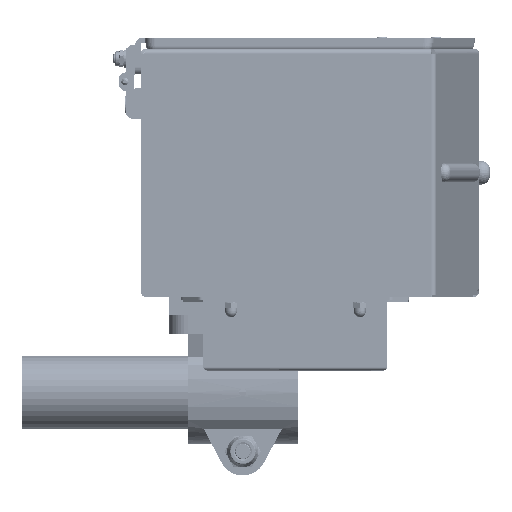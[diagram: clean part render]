
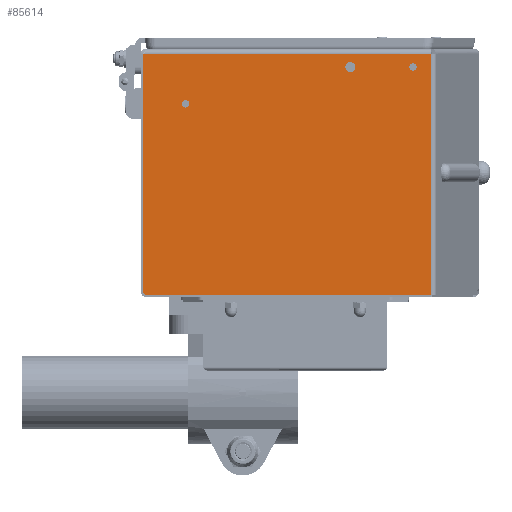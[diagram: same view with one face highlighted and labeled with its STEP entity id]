
A CAD part, left-side view. The second image highlights one B-rep face of the part: STEP entity #85614.
In plain terms, the highlighted planar face has unit normal (-1, 0, 0).
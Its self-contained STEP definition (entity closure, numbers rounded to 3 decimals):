
#4157=CIRCLE('',#103042,2.5);
#4377=CIRCLE('',#103397,2.05);
#4378=CIRCLE('',#103398,2.05);
#4379=CIRCLE('',#103399,2.05);
#21640=ORIENTED_EDGE('',*,*,#38430,.F.);
#21641=ORIENTED_EDGE('',*,*,#38423,.T.);
#21642=ORIENTED_EDGE('',*,*,#38451,.F.);
#21643=ORIENTED_EDGE('',*,*,#39011,.F.);
#21644=ORIENTED_EDGE('',*,*,#39012,.F.);
#21645=ORIENTED_EDGE('',*,*,#38434,.F.);
#21646=ORIENTED_EDGE('',*,*,#39013,.F.);
#21647=ORIENTED_EDGE('',*,*,#39014,.F.);
#21648=ORIENTED_EDGE('',*,*,#39015,.F.);
#38423=EDGE_CURVE('',#48275,#48274,#4157,.T.);
#38430=EDGE_CURVE('',#48275,#48281,#56698,.T.);
#38434=EDGE_CURVE('',#48281,#48282,#56702,.T.);
#38451=EDGE_CURVE('',#48296,#48274,#56717,.T.);
#39011=EDGE_CURVE('',#48708,#48296,#57028,.T.);
#39012=EDGE_CURVE('',#48282,#48708,#57029,.T.);
#39013=EDGE_CURVE('',#48709,#48709,#4377,.T.);
#39014=EDGE_CURVE('',#48710,#48710,#4378,.T.);
#39015=EDGE_CURVE('',#48711,#48711,#4379,.T.);
#48274=VERTEX_POINT('',#149723);
#48275=VERTEX_POINT('',#149725);
#48281=VERTEX_POINT('',#149740);
#48282=VERTEX_POINT('',#149744);
#48296=VERTEX_POINT('',#149782);
#48708=VERTEX_POINT('',#151214);
#48709=VERTEX_POINT('',#151217);
#48710=VERTEX_POINT('',#151219);
#48711=VERTEX_POINT('',#151221);
#56698=LINE('',#149739,#64813);
#56702=LINE('',#149747,#64817);
#56717=LINE('',#149781,#64832);
#57028=LINE('',#151213,#65143);
#57029=LINE('',#151215,#65144);
#64813=VECTOR('',#120616,1000.);
#64817=VECTOR('',#120622,1000.);
#64832=VECTOR('',#120651,1000.);
#65143=VECTOR('',#121646,1000.);
#65144=VECTOR('',#121647,1000.);
#71594=EDGE_LOOP('',(#21640,#21641,#21642,#21643,#21644,#21645));
#71595=EDGE_LOOP('',(#21646));
#71596=EDGE_LOOP('',(#21647));
#71597=EDGE_LOOP('',(#21648));
#77506=FACE_BOUND('',#71594,.T.);
#77507=FACE_BOUND('',#71595,.T.);
#77508=FACE_BOUND('',#71596,.T.);
#77509=FACE_BOUND('',#71597,.T.);
#81673=PLANE('',#103396);
#85614=ADVANCED_FACE('',(#77506,#77507,#77508,#77509),#81673,.F.);
#103042=AXIS2_PLACEMENT_3D('',#149724,#120602,#120603);
#103396=AXIS2_PLACEMENT_3D('',#151212,#121644,#121645);
#103397=AXIS2_PLACEMENT_3D('',#151216,#121648,#121649);
#103398=AXIS2_PLACEMENT_3D('',#151218,#121650,#121651);
#103399=AXIS2_PLACEMENT_3D('',#151220,#121652,#121653);
#120602=DIRECTION('',(-1.,0.,0.));
#120603=DIRECTION('',(0.,0.,-1.));
#120616=DIRECTION('',(0.,0.,1.));
#120622=DIRECTION('',(0.,-1.,0.));
#120651=DIRECTION('',(0.,1.,0.));
#121644=DIRECTION('',(1.,0.,0.));
#121645=DIRECTION('',(0.,0.,-1.));
#121646=DIRECTION('',(0.,0.,-1.));
#121647=DIRECTION('',(0.,-1.,0.));
#121648=DIRECTION('',(-1.,0.,0.));
#121649=DIRECTION('',(0.,0.,1.));
#121650=DIRECTION('',(-1.,0.,0.));
#121651=DIRECTION('',(0.,0.,1.));
#121652=DIRECTION('',(-1.,0.,0.));
#121653=DIRECTION('',(0.,0.,1.));
#149723=CARTESIAN_POINT('',(-250.011,-3.571,1.071));
#149724=CARTESIAN_POINT('',(-250.011,-3.571,3.571));
#149725=CARTESIAN_POINT('',(-250.011,-1.071,3.571));
#149739=CARTESIAN_POINT('',(-250.011,-1.071,1.071));
#149740=CARTESIAN_POINT('',(-250.011,-1.071,132.));
#149744=CARTESIAN_POINT('',(-250.011,-2.071,132.));
#149747=CARTESIAN_POINT('',(-250.011,-1.071,132.));
#149781=CARTESIAN_POINT('',(-250.011,-157.695,1.071));
#149782=CARTESIAN_POINT('',(-250.011,-157.695,1.071));
#151212=CARTESIAN_POINT('',(-250.011,-146.695,131.5));
#151213=CARTESIAN_POINT('',(-250.011,-157.695,101.768));
#151214=CARTESIAN_POINT('',(-250.011,-157.695,132.));
#151215=CARTESIAN_POINT('',(-250.011,-146.695,132.));
#151216=CARTESIAN_POINT('',(-250.011,-114.,125.));
#151217=CARTESIAN_POINT('',(-250.011,-114.,127.05));
#151218=CARTESIAN_POINT('',(-250.011,-148.,125.));
#151219=CARTESIAN_POINT('',(-250.011,-148.,127.05));
#151220=CARTESIAN_POINT('',(-250.011,-24.38,105.03));
#151221=CARTESIAN_POINT('',(-250.011,-24.38,107.08));
